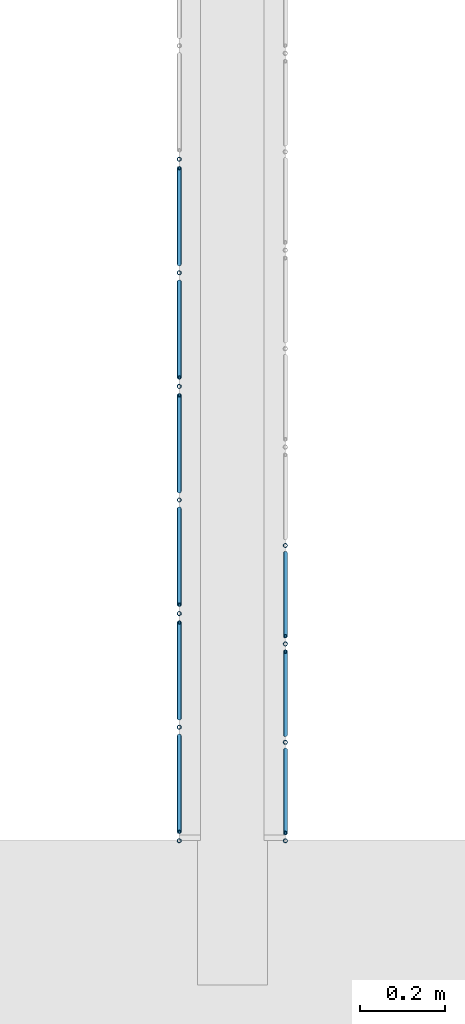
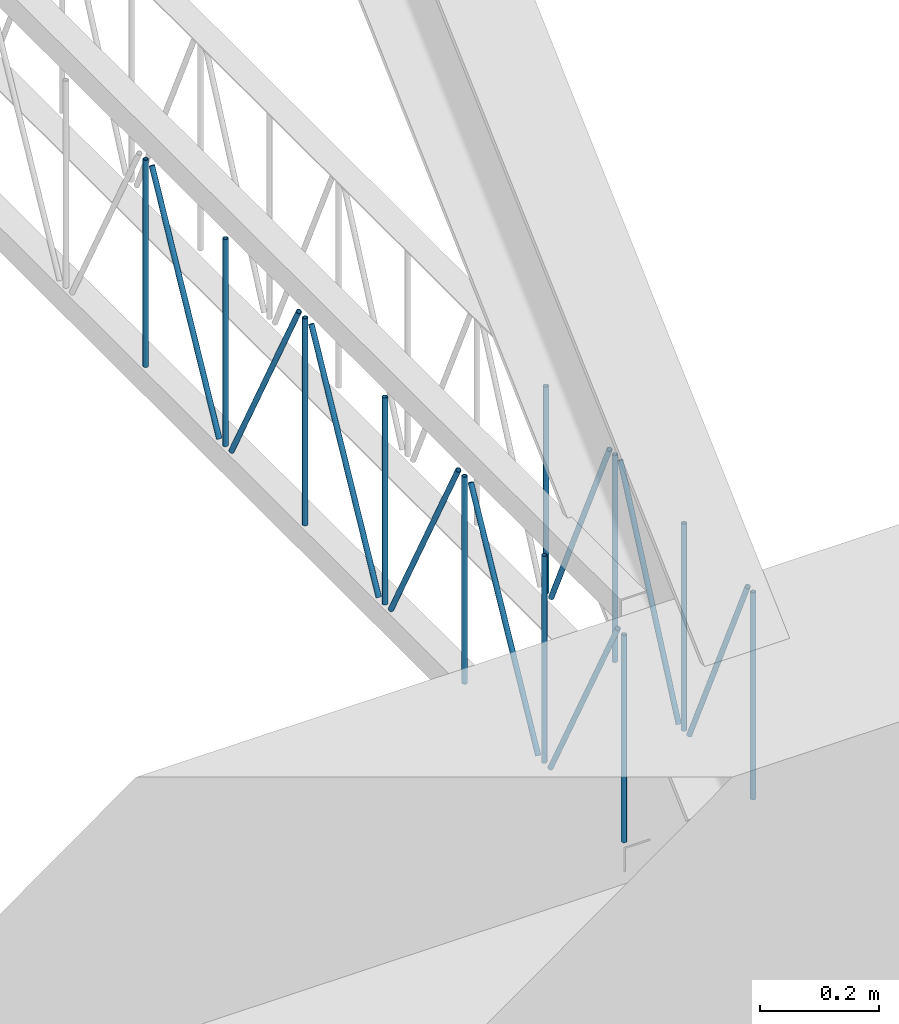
# One storey, part 18 of 153: 20 members, 2 elements without a shape of their own.
"""IFC4 building model written with IfcOpenShell, lengths in metres."""

from ifc_helpers import new_model, entity, si_unit, converted_unit, derived_unit, direction, frame, origin, place, context, subcontext, project, spatial, arc, indexed_curve, outline, extrude, source, transform, mapped, material, type_object, type_shapes, element, aggregate, save


model = new_model("IFC4")

# Units and contexts
model_context = context("Model", 3, precision=1e-05, world=origin(), true_north=direction((6.123031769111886e-17, 1.0)))
body_context = subcontext(model_context, "Body", "Model", "MODEL_VIEW")
ifc_project = project(units=[si_unit("LENGTHUNIT", "METRE"), si_unit("AREAUNIT", "SQUARE_METRE"), si_unit("VOLUMEUNIT", "CUBIC_METRE"), converted_unit("PLANEANGLEUNIT", "DEGREE", entity("IfcRatioMeasure", 0.017453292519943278), si_unit("PLANEANGLEUNIT", "RADIAN"), dimensions=[0, 0, 0, 0, 0, 0, 0]), si_unit("MASSUNIT", "GRAM", prefix="KILO"), derived_unit("MASSDENSITYUNIT", [(si_unit("MASSUNIT", "GRAM", prefix="KILO"), 1), (si_unit("LENGTHUNIT", "METRE"), -3)]), derived_unit("MOMENTOFINERTIAUNIT", [(si_unit("LENGTHUNIT", "METRE"), 4)]), si_unit("TIMEUNIT", "SECOND"), si_unit("FREQUENCYUNIT", "HERTZ"), si_unit("THERMODYNAMICTEMPERATUREUNIT", "DEGREE_CELSIUS"), derived_unit("THERMALTRANSMITTANCEUNIT", [(si_unit("MASSUNIT", "GRAM", prefix="KILO"), 1), (si_unit("THERMODYNAMICTEMPERATUREUNIT", "KELVIN"), -1), (si_unit("TIMEUNIT", "SECOND"), -3)]), derived_unit("VOLUMETRICFLOWRATEUNIT", [(si_unit("LENGTHUNIT", "METRE"), 3), (si_unit("TIMEUNIT", "SECOND"), -1)]), derived_unit("MASSFLOWRATEUNIT", [(si_unit("MASSUNIT", "GRAM", prefix="KILO"), 1), (si_unit("TIMEUNIT", "SECOND"), -1)]), derived_unit("ROTATIONALFREQUENCYUNIT", [(si_unit("TIMEUNIT", "SECOND"), -1)]), si_unit("ELECTRICCURRENTUNIT", "AMPERE"), si_unit("ELECTRICVOLTAGEUNIT", "VOLT"), si_unit("POWERUNIT", "WATT"), si_unit("FORCEUNIT", "NEWTON", prefix="KILO"), si_unit("ILLUMINANCEUNIT", "LUX"), si_unit("LUMINOUSFLUXUNIT", "LUMEN"), si_unit("LUMINOUSINTENSITYUNIT", "CANDELA"), derived_unit("USERDEFINED", [(si_unit("MASSUNIT", "GRAM", prefix="KILO"), -1), (si_unit("LENGTHUNIT", "METRE"), -2), (si_unit("TIMEUNIT", "SECOND"), 3), (si_unit("LUMINOUSFLUXUNIT", "LUMEN"), 1)]), derived_unit("SOUNDPOWERUNIT", [(si_unit("MASSUNIT", "GRAM", prefix="KILO"), 1), (si_unit("LENGTHUNIT", "METRE"), 2), (si_unit("TIMEUNIT", "SECOND"), -3)]), derived_unit("SOUNDPRESSUREUNIT", [(si_unit("MASSUNIT", "GRAM", prefix="KILO"), 1), (si_unit("LENGTHUNIT", "METRE"), -1), (si_unit("TIMEUNIT", "SECOND"), -2)]), derived_unit("LINEARVELOCITYUNIT", [(si_unit("LENGTHUNIT", "METRE"), 1), (si_unit("TIMEUNIT", "SECOND"), -1)]), si_unit("PRESSUREUNIT", "PASCAL"), derived_unit("USERDEFINED", [(si_unit("LENGTHUNIT", "METRE"), -2), (si_unit("MASSUNIT", "GRAM", prefix="KILO"), 1), (si_unit("TIMEUNIT", "SECOND"), -2)]), derived_unit("LINEARFORCEUNIT", [(si_unit("MASSUNIT", "GRAM", prefix="KILO"), 1), (si_unit("LENGTHUNIT", "METRE"), 1), (si_unit("TIMEUNIT", "SECOND"), -2), (si_unit("LENGTHUNIT", "METRE"), -1)]), derived_unit("PLANARFORCEUNIT", [(si_unit("MASSUNIT", "GRAM", prefix="KILO"), 1), (si_unit("LENGTHUNIT", "METRE"), 1), (si_unit("TIMEUNIT", "SECOND"), -2), (si_unit("LENGTHUNIT", "METRE"), -2)])], contexts=[model_context])

# Site, building, storey
site_placement = place(None, origin())
site = spatial("IfcSite", under=ifc_project, at=site_placement, Name="Superficie", CompositionType="ELEMENT")
building_placement = place(site_placement, origin())
building = spatial("IfcBuilding", under=site, at=building_placement, CompositionType="ELEMENT")
storey_placement = place(building_placement, frame((0.0, 0.0, 3.5999999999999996)))
storey = spatial("IfcBuildingStorey", under=building, at=storey_placement, Name="Nivel 1", CompositionType="ELEMENT", Elevation=3.5999999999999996)

# Assembly, members
assembly_1_placement = place(storey_placement, origin())
assembly_1 = element("IfcElementAssembly", 1, at=assembly_1_placement, inside=storey, Name="Viga de celosia 13:Viga de celosia 13", ObjectType="Viga de celosia 13:Viga de celosia 13", AssemblyPlace="NOTDEFINED", PredefinedType="TRUSS")
ifc_material = material(Name="Metal - Calibre delgado", Category="Metal")
member_type_1 = type_object("IfcMemberType", Name="HSS-Tubo estructural redondo:HSS 0.01", PredefinedType="BRACE", material=ifc_material)
shared_shape_1 = source(origin(), body_context, "Body", "SweptSolid", [
    extrude(outline(indexed_curve([(-0.005000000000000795, 7.502054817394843e-18), (-9.800269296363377e-18, -0.005000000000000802), (0.005000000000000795, -7.502054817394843e-18), (8.07772287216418e-18, 0.005000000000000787)], segments=[arc(1, 2, 3), arc(3, 4, 1)], self_intersect=False), holes=[indexed_curve([(0.003999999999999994, 7.222511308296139e-17), (6.910645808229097e-17, -0.004000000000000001), (-0.003999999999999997, -1.8650054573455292e-17), (-2.9156497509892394e-17, 0.003999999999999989)], segments=[arc(1, 2, 3), arc(3, 4, 1)], self_intersect=False)]), frame((-0.21200000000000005, 0.0, 0.0), z_axis=(1.0, 0.0, 0.0), x_axis=(0.0, 1.0, 0.0)), (0.0, 0.0, 1.0), 0.4240000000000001),
])
type_shapes(member_type_1, [shared_shape_1])
member_1_placement = place(assembly_1_placement, frame((-13.813200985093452, -12.943502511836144, 0.25), z_axis=(0.0, 1.0, 0.0), x_axis=(0.0, 0.0, 1.0)))
member_1 = element("IfcMember", 2, at=member_1_placement, type_object=member_type_1, material=ifc_material, Name="HSS-Tubo estructural redondo:HSS 0.01", ObjectType="HSS-Tubo estructural redondo:HSS 0.01", PredefinedType="BRACE", context=body_context, shape_type="MappedRepresentation", body=[
    mapped(shared_shape_1, transform((0.0, 0.0, 0.0), scale=1.0)),
])
member_2_placement = place(assembly_1_placement, frame((-13.813200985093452, -12.676002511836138, 0.25), z_axis=(0.0, 1.0, 0.0), x_axis=(0.0, 0.0, 1.0)))
member_2 = element("IfcMember", 3, at=member_2_placement, type_object=member_type_1, material=ifc_material, Name="HSS-Tubo estructural redondo:HSS 0.01", ObjectType="HSS-Tubo estructural redondo:HSS 0.01", PredefinedType="BRACE", context=body_context, shape_type="MappedRepresentation", body=[
    mapped(shared_shape_1, transform((0.0, 0.0, 0.0), scale=1.0)),
])
member_3_placement = place(assembly_1_placement, frame((-13.813200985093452, -12.408502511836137, 0.25), z_axis=(0.0, 1.0, 0.0), x_axis=(0.0, 0.0, 1.0)))
member_3 = element("IfcMember", 4, at=member_3_placement, type_object=member_type_1, material=ifc_material, Name="HSS-Tubo estructural redondo:HSS 0.01", ObjectType="HSS-Tubo estructural redondo:HSS 0.01", PredefinedType="BRACE", context=body_context, shape_type="MappedRepresentation", body=[
    mapped(shared_shape_1, transform((0.0, 0.0, 0.0), scale=1.0)),
])
member_4_placement = place(assembly_1_placement, frame((-13.813200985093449, -12.141002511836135, 0.25), z_axis=(0.0, 1.0, 0.0), x_axis=(0.0, 0.0, 1.0)))
member_4 = element("IfcMember", 5, at=member_4_placement, type_object=member_type_1, material=ifc_material, Name="HSS-Tubo estructural redondo:HSS 0.01", ObjectType="HSS-Tubo estructural redondo:HSS 0.01", PredefinedType="BRACE", context=body_context, shape_type="MappedRepresentation", body=[
    mapped(shared_shape_1, transform((0.0, 0.0, 0.0), scale=1.0)),
])
member_5_placement = place(assembly_1_placement, frame((-13.813200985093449, -11.873502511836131, 0.25), z_axis=(0.0, 1.0, 0.0), x_axis=(0.0, 0.0, 1.0)))
member_5 = element("IfcMember", 6, at=member_5_placement, type_object=member_type_1, material=ifc_material, Name="HSS-Tubo estructural redondo:HSS 0.01", ObjectType="HSS-Tubo estructural redondo:HSS 0.01", PredefinedType="BRACE", context=body_context, shape_type="MappedRepresentation", body=[
    mapped(shared_shape_1, transform((0.0, 0.0, 0.0), scale=1.0)),
])
member_6_placement = place(assembly_1_placement, frame((-13.813200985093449, -11.606002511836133, 0.25), z_axis=(0.0, 1.0, 0.0), x_axis=(0.0, 0.0, 1.0)))
member_6 = element("IfcMember", 7, at=member_6_placement, type_object=member_type_1, material=ifc_material, Name="HSS-Tubo estructural redondo:HSS 0.01", ObjectType="HSS-Tubo estructural redondo:HSS 0.01", PredefinedType="BRACE", context=body_context, shape_type="MappedRepresentation", body=[
    mapped(shared_shape_1, transform((0.0, 0.0, 0.0), scale=1.0)),
])
member_7_placement = place(assembly_1_placement, frame((-13.813200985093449, -11.33850251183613, 0.25), z_axis=(0.0, 1.0, 0.0), x_axis=(0.0, 0.0, 1.0)))
member_7 = element("IfcMember", 8, at=member_7_placement, type_object=member_type_1, material=ifc_material, Name="HSS-Tubo estructural redondo:HSS 0.01", ObjectType="HSS-Tubo estructural redondo:HSS 0.01", PredefinedType="BRACE", context=body_context, shape_type="MappedRepresentation", body=[
    mapped(shared_shape_1, transform((0.0, 0.0, 0.0), scale=1.0)),
])

assembly_2_placement = place(storey_placement, origin())
assembly_2 = element("IfcElementAssembly", 9, at=assembly_2_placement, inside=storey, Name="Viga de celosia 13:Viga de celosia 13", ObjectType="Viga de celosia 13:Viga de celosia 13", AssemblyPlace="NOTDEFINED", PredefinedType="TRUSS")
member_type_2 = type_object("IfcMemberType", Name="HSS-Tubo estructural redondo:HSS 0.01", PredefinedType="BRACE", material=ifc_material)
shared_shape_2 = source(origin(), body_context, "Body", "SweptSolid", [
    extrude(outline(indexed_curve([(-0.005000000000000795, 2.0824731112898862e-17), (-2.3122945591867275e-17, -0.005000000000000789), (0.005000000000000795, -2.08247311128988e-17), (2.14003991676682e-17, 0.005000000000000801)], segments=[arc(1, 2, 3), arc(3, 4, 1)], self_intersect=False), holes=[indexed_curve([(0.003999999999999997, -1.3094283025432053e-17), (-1.531427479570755e-18, -0.003999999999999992), (-0.004, 4.0098531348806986e-17), (4.1481388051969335e-17, 0.0039999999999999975)], segments=[arc(1, 2, 3), arc(3, 4, 1)], self_intersect=False)]), frame((-0.21200000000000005, 0.0, 0.0), z_axis=(1.0, 0.0, 0.0), x_axis=(0.0, -1.0, 0.0)), (0.0, 0.0, 1.0), 0.4240000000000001),
])
type_shapes(member_type_2, [shared_shape_2])
member_8_placement = place(assembly_2_placement, frame((-13.563200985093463, -12.943502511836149, 0.25), z_axis=(0.0, 1.0, 0.0), x_axis=(0.0, 0.0, 1.0)))
member_8 = element("IfcMember", 10, at=member_8_placement, type_object=member_type_2, material=ifc_material, Name="HSS-Tubo estructural redondo:HSS 0.01", ObjectType="HSS-Tubo estructural redondo:HSS 0.01", PredefinedType="BRACE", context=body_context, shape_type="MappedRepresentation", body=[
    mapped(shared_shape_2, transform((0.0, 0.0, 0.0), scale=1.0)),
])
member_9_placement = place(assembly_2_placement, frame((-13.563200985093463, -12.711716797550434, 0.25), z_axis=(0.0, 1.0, 0.0), x_axis=(0.0, 0.0, 1.0)))
member_9 = element("IfcMember", 11, at=member_9_placement, type_object=member_type_2, material=ifc_material, Name="HSS-Tubo estructural redondo:HSS 0.01", ObjectType="HSS-Tubo estructural redondo:HSS 0.01", PredefinedType="BRACE", context=body_context, shape_type="MappedRepresentation", body=[
    mapped(shared_shape_2, transform((0.0, 0.0, 0.0), scale=1.0)),
])
member_10_placement = place(assembly_2_placement, frame((-13.563200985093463, -12.479931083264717, 0.25), z_axis=(0.0, 1.0, 0.0), x_axis=(0.0, 0.0, 1.0)))
member_10 = element("IfcMember", 12, at=member_10_placement, type_object=member_type_2, material=ifc_material, Name="HSS-Tubo estructural redondo:HSS 0.01", ObjectType="HSS-Tubo estructural redondo:HSS 0.01", PredefinedType="BRACE", context=body_context, shape_type="MappedRepresentation", body=[
    mapped(shared_shape_2, transform((0.0, 0.0, 0.0), scale=1.0)),
])
member_11_placement = place(assembly_2_placement, frame((-13.563200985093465, -12.248145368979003, 0.25), z_axis=(0.0, 1.0, 0.0), x_axis=(0.0, 0.0, 1.0)))
member_11 = element("IfcMember", 13, at=member_11_placement, type_object=member_type_2, material=ifc_material, Name="HSS-Tubo estructural redondo:HSS 0.01", ObjectType="HSS-Tubo estructural redondo:HSS 0.01", PredefinedType="BRACE", context=body_context, shape_type="MappedRepresentation", body=[
    mapped(shared_shape_2, transform((0.0, 0.0, 0.0), scale=1.0)),
])

# Member
member_type_3 = type_object("IfcMemberType", Name="HSS-Tubo estructural redondo:HSS 0.01", PredefinedType="BRACE", material=ifc_material)
shared_shape_3 = source(origin(), body_context, "Body", "SweptSolid", [
    extrude(outline(indexed_curve([(-0.005000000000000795, 7.502054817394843e-18), (-9.800269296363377e-18, -0.005000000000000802), (0.005000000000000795, -7.502054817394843e-18), (8.07772287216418e-18, 0.005000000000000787)], segments=[arc(1, 2, 3), arc(3, 4, 1)], self_intersect=False), holes=[indexed_curve([(0.003999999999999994, 7.222511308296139e-17), (6.910645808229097e-17, -0.004000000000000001), (-0.003999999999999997, -1.8650054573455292e-17), (-2.9156497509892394e-17, 0.003999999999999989)], segments=[arc(1, 2, 3), arc(3, 4, 1)], self_intersect=False)]), frame((-0.23950000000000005, 0.0, 0.0), z_axis=(1.0, 0.0, 0.0), x_axis=(0.0, 1.0, 0.0)), (0.0, 0.0, 1.0), 0.4790000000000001),
])
type_shapes(member_type_3, [shared_shape_3])
member_12_placement = place(assembly_1_placement, frame((-13.813200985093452, -12.809752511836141, 0.25), z_axis=(0.0, -0.8817419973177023, -0.47173196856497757), x_axis=(0.0, 0.47173196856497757, -0.8817419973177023)))
member_12 = element("IfcMember", 14, at=member_12_placement, type_object=member_type_3, material=ifc_material, Name="HSS-Tubo estructural redondo:HSS 0.01", ObjectType="HSS-Tubo estructural redondo:HSS 0.01", PredefinedType="BRACE", context=body_context, shape_type="MappedRepresentation", body=[
    mapped(shared_shape_3, transform((0.0, 0.0, 0.0), scale=1.0)),
])

member_13_placement = place(assembly_1_placement, frame((-13.813200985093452, -12.54225251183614, 0.2499999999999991), z_axis=(0.0, 0.881741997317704, -0.47173196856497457), x_axis=(0.0, 0.47173196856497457, 0.881741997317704)))
member_13 = element("IfcMember", 15, at=member_13_placement, type_object=member_type_3, material=ifc_material, Name="HSS-Tubo estructural redondo:HSS 0.01", ObjectType="HSS-Tubo estructural redondo:HSS 0.01", PredefinedType="BRACE", context=body_context, shape_type="MappedRepresentation", body=[
    mapped(shared_shape_3, transform((0.0, 0.0, 0.0), scale=1.0)),
])

member_14_placement = place(assembly_1_placement, frame((-13.813200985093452, -12.274752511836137, 0.25), z_axis=(0.0, -0.8817419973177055, -0.4717319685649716), x_axis=(0.0, 0.4717319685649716, -0.8817419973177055)))
member_14 = element("IfcMember", 16, at=member_14_placement, type_object=member_type_3, material=ifc_material, Name="HSS-Tubo estructural redondo:HSS 0.01", ObjectType="HSS-Tubo estructural redondo:HSS 0.01", PredefinedType="BRACE", context=body_context, shape_type="MappedRepresentation", body=[
    mapped(shared_shape_3, transform((0.0, 0.0, 0.0), scale=1.0)),
])

member_15_placement = place(assembly_1_placement, frame((-13.813200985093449, -12.00725251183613, 0.2500000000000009), z_axis=(0.0, 0.8817419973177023, -0.47173196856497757), x_axis=(0.0, 0.47173196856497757, 0.8817419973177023)))
member_15 = element("IfcMember", 17, at=member_15_placement, type_object=member_type_3, material=ifc_material, Name="HSS-Tubo estructural redondo:HSS 0.01", ObjectType="HSS-Tubo estructural redondo:HSS 0.01", PredefinedType="BRACE", context=body_context, shape_type="MappedRepresentation", body=[
    mapped(shared_shape_3, transform((0.0, 0.0, 0.0), scale=1.0)),
])

member_16_placement = place(assembly_1_placement, frame((-13.813200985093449, -11.739752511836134, 0.25), z_axis=(0.0, -0.8817419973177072, -0.4717319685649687), x_axis=(0.0, 0.4717319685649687, -0.8817419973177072)))
member_16 = element("IfcMember", 18, at=member_16_placement, type_object=member_type_3, material=ifc_material, Name="HSS-Tubo estructural redondo:HSS 0.01", ObjectType="HSS-Tubo estructural redondo:HSS 0.01", PredefinedType="BRACE", context=body_context, shape_type="MappedRepresentation", body=[
    mapped(shared_shape_3, transform((0.0, 0.0, 0.0), scale=1.0)),
])

member_17_placement = place(assembly_1_placement, frame((-13.813200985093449, -11.47225251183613, 0.2500000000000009), z_axis=(0.0, 0.8817419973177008, -0.4717319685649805), x_axis=(0.0, 0.4717319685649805, 0.8817419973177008)))
member_17 = element("IfcMember", 19, at=member_17_placement, type_object=member_type_3, material=ifc_material, Name="HSS-Tubo estructural redondo:HSS 0.01", ObjectType="HSS-Tubo estructural redondo:HSS 0.01", PredefinedType="BRACE", context=body_context, shape_type="MappedRepresentation", body=[
    mapped(shared_shape_3, transform((0.0, 0.0, 0.0), scale=1.0)),
])

aggregate(assembly_1, [member_1, member_2, member_3, member_4, member_5, member_6, member_7, member_12, member_13, member_14, member_15, member_16, member_17])

member_type_4 = type_object("IfcMemberType", Name="HSS-Tubo estructural redondo:HSS 0.01", PredefinedType="BRACE", material=ifc_material)
shared_shape_4 = source(origin(), body_context, "Body", "SweptSolid", [
    extrude(outline(indexed_curve([(-0.005000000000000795, 2.0824731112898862e-17), (-2.3122945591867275e-17, -0.005000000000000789), (0.005000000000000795, -2.08247311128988e-17), (2.14003991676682e-17, 0.005000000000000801)], segments=[arc(1, 2, 3), arc(3, 4, 1)], self_intersect=False), holes=[indexed_curve([(0.003999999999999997, -1.3094283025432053e-17), (-1.531427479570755e-18, -0.003999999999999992), (-0.004, 4.0098531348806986e-17), (4.1481388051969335e-17, 0.0039999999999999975)], segments=[arc(1, 2, 3), arc(3, 4, 1)], self_intersect=False)]), frame((-0.2325, 0.0, 0.0), z_axis=(1.0, 0.0, 0.0), x_axis=(0.0, -1.0, 0.0)), (0.0, 0.0, 1.0), 0.465),
])
type_shapes(member_type_4, [shared_shape_4])
member_18_placement = place(assembly_2_placement, frame((-13.563200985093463, -12.827609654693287, 0.25), z_axis=(0.0, -0.907256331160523, -0.4205781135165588), x_axis=(0.0, 0.4205781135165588, -0.907256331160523)))
member_18 = element("IfcMember", 20, at=member_18_placement, type_object=member_type_4, material=ifc_material, Name="HSS-Tubo estructural redondo:HSS 0.01", ObjectType="HSS-Tubo estructural redondo:HSS 0.01", PredefinedType="BRACE", context=body_context, shape_type="MappedRepresentation", body=[
    mapped(shared_shape_4, transform((0.0, 0.0, 0.0), scale=1.0)),
])

member_19_placement = place(assembly_2_placement, frame((-13.563200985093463, -12.595823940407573, 0.25), z_axis=(0.0, 0.907256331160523, -0.4205781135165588), x_axis=(0.0, 0.4205781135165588, 0.907256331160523)))
member_19 = element("IfcMember", 21, at=member_19_placement, type_object=member_type_4, material=ifc_material, Name="HSS-Tubo estructural redondo:HSS 0.01", ObjectType="HSS-Tubo estructural redondo:HSS 0.01", PredefinedType="BRACE", context=body_context, shape_type="MappedRepresentation", body=[
    mapped(shared_shape_4, transform((0.0, 0.0, 0.0), scale=1.0)),
])

member_20_placement = place(assembly_2_placement, frame((-13.563200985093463, -12.364038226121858, 0.2500000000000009), z_axis=(0.0, -0.907256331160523, -0.4205781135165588), x_axis=(0.0, 0.4205781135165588, -0.907256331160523)))
member_20 = element("IfcMember", 22, at=member_20_placement, type_object=member_type_4, material=ifc_material, Name="HSS-Tubo estructural redondo:HSS 0.01", ObjectType="HSS-Tubo estructural redondo:HSS 0.01", PredefinedType="BRACE", context=body_context, shape_type="MappedRepresentation", body=[
    mapped(shared_shape_4, transform((0.0, 0.0, 0.0), scale=1.0)),
])

aggregate(assembly_2, [member_8, member_9, member_10, member_11, member_18, member_19, member_20])

save(model, "model.ifc")
